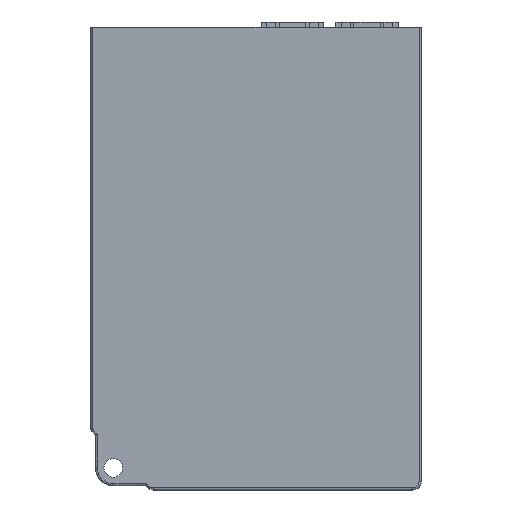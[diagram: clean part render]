
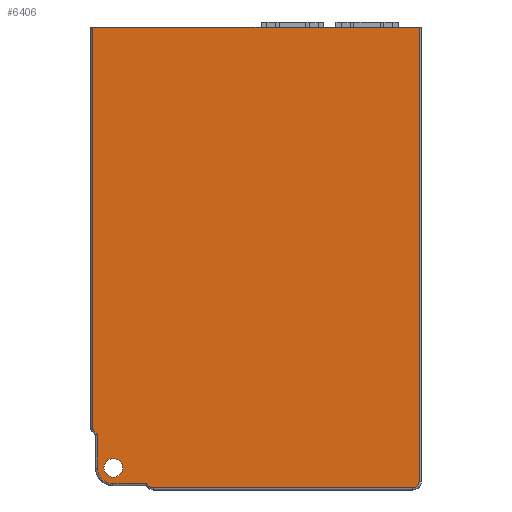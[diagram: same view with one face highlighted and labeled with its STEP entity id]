
A CAD part, front view. The second image highlights one B-rep face of the part: STEP entity #6406.
In plain terms, the highlighted planar face has unit normal (0, -1, 0).
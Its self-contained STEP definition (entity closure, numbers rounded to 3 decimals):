
#2748=CARTESIAN_POINT('',(-34.35,0.,-68.85));
#2749=DIRECTION('',(0.,-1.,0.));
#2750=DIRECTION('',(1.,0.,0.));
#2751=AXIS2_PLACEMENT_3D('',#2748,#2749,#2750);
#2756=CARTESIAN_POINT('',(-34.35,0.,-68.85));
#2757=DIRECTION('',(0.,-1.,0.));
#2758=DIRECTION('',(-1.,0.,0.));
#2759=AXIS2_PLACEMENT_3D('',#2756,#2757,#2758);
#2764=DIRECTION('',(1.,0.,0.));
#2765=VECTOR('',#2764,78.5);
#2766=CARTESIAN_POINT('',(-39.25,0.,37.202));
#2767=LINE('',#2766,#2765);
#2771=DIRECTION('',(0.,0.,1.));
#2772=VECTOR('',#2771,109.39);
#2773=CARTESIAN_POINT('',(39.25,0.,-72.188));
#2774=LINE('',#2773,#2772);
#2778=CARTESIAN_POINT('',(37.75,0.,-72.188));
#2779=DIRECTION('',(0.,-1.,0.));
#2780=DIRECTION('',(0.,0.,-1.));
#2781=AXIS2_PLACEMENT_3D('',#2778,#2779,#2780);
#2786=DIRECTION('',(1.,0.,0.));
#2787=VECTOR('',#2786,62.39);
#2788=CARTESIAN_POINT('',(-24.64,0.,-73.688));
#2789=LINE('',#2788,#2787);
#2793=CARTESIAN_POINT('',(-24.64,0.,-72.188));
#2794=DIRECTION('',(0.,-1.,0.));
#2795=DIRECTION('',(-0.707,0.,-0.707));
#2796=AXIS2_PLACEMENT_3D('',#2793,#2794,#2795);
#2801=DIRECTION('',(0.707,0.,-0.707));
#2802=VECTOR('',#2801,0.846);
#2803=CARTESIAN_POINT('',(-26.299,0.,-72.65));
#2804=LINE('',#2803,#2802);
#2808=DIRECTION('',(1.,0.,0.));
#2809=VECTOR('',#2808,8.151);
#2810=CARTESIAN_POINT('',(-34.45,0.,-72.65));
#2811=LINE('',#2810,#2809);
#2815=CARTESIAN_POINT('',(-34.45,0.,-68.95));
#2816=DIRECTION('',(0.,-1.,0.));
#2817=DIRECTION('',(-1.,0.,0.));
#2818=AXIS2_PLACEMENT_3D('',#2815,#2816,#2817);
#2823=DIRECTION('',(0.,0.,-1.));
#2824=VECTOR('',#2823,8.151);
#2825=CARTESIAN_POINT('',(-38.15,0.,-60.799));
#2826=LINE('',#2825,#2824);
#2830=DIRECTION('',(0.707,0.,-0.707));
#2831=VECTOR('',#2830,1.349);
#2832=CARTESIAN_POINT('',(-39.104,0.,-59.845));
#2833=LINE('',#2832,#2831);
#2837=CARTESIAN_POINT('',(-38.75,0.,-59.492));
#2838=DIRECTION('',(0.,-1.,0.));
#2839=DIRECTION('',(-1.,0.,0.));
#2840=AXIS2_PLACEMENT_3D('',#2837,#2838,#2839);
#2845=DIRECTION('',(0.,0.,-1.));
#2846=VECTOR('',#2845,96.694);
#2847=CARTESIAN_POINT('',(-39.25,0.,37.202));
#2848=LINE('',#2847,#2846);
#3410=CARTESIAN_POINT('',(-32.1,0.,-68.85));
#3411=CARTESIAN_POINT('',(-36.6,0.,-68.85));
#3412=VERTEX_POINT('',#3410);
#3413=VERTEX_POINT('',#3411);
#3477=CARTESIAN_POINT('',(-34.45,0.,-72.65));
#3478=CARTESIAN_POINT('',(-26.299,0.,-72.65));
#3479=VERTEX_POINT('',#3477);
#3480=VERTEX_POINT('',#3478);
#3481=CARTESIAN_POINT('',(-38.15,0.,-68.95));
#3482=VERTEX_POINT('',#3481);
#3485=CARTESIAN_POINT('',(-38.15,0.,-60.799));
#3486=VERTEX_POINT('',#3485);
#3489=CARTESIAN_POINT('',(-25.7,0.,-73.249));
#3490=VERTEX_POINT('',#3489);
#3493=CARTESIAN_POINT('',(-24.64,0.,-73.688));
#3494=VERTEX_POINT('',#3493);
#3497=CARTESIAN_POINT('',(37.75,0.,-73.688));
#3498=VERTEX_POINT('',#3497);
#3501=CARTESIAN_POINT('',(39.25,0.,-72.188));
#3502=VERTEX_POINT('',#3501);
#3505=CARTESIAN_POINT('',(-39.25,0.,-59.492));
#3506=CARTESIAN_POINT('',(-39.104,0.,-59.845));
#3507=VERTEX_POINT('',#3505);
#3508=VERTEX_POINT('',#3506);
#3513=CARTESIAN_POINT('',(-39.25,0.,37.202));
#3514=CARTESIAN_POINT('',(39.25,0.,37.202));
#3515=VERTEX_POINT('',#3513);
#3516=VERTEX_POINT('',#3514);
#6371=CARTESIAN_POINT('',(-39.75,0.,75.));
#6372=DIRECTION('',(0.,-1.,0.));
#6373=DIRECTION('',(0.,0.,-1.));
#6374=AXIS2_PLACEMENT_3D('',#6371,#6372,#6373);
#6375=PLANE('',#6374);
#6376=ORIENTED_EDGE('',*,*,#4326,.T.);
#6378=ORIENTED_EDGE('',*,*,#6377,.F.);
#6380=ORIENTED_EDGE('',*,*,#6379,.F.);
#6382=ORIENTED_EDGE('',*,*,#6381,.F.);
#6384=ORIENTED_EDGE('',*,*,#6383,.F.);
#6386=ORIENTED_EDGE('',*,*,#6385,.F.);
#6388=ORIENTED_EDGE('',*,*,#6387,.F.);
#6390=ORIENTED_EDGE('',*,*,#6389,.F.);
#6392=ORIENTED_EDGE('',*,*,#6391,.F.);
#6394=ORIENTED_EDGE('',*,*,#6393,.F.);
#6395=ORIENTED_EDGE('',*,*,#6361,.F.);
#6397=ORIENTED_EDGE('',*,*,#6396,.F.);
#6398=EDGE_LOOP('',(#6376,#6378,#6380,#6382,#6384,#6386,#6388,#6390,#6392,#6394,
#6395,#6397));
#6399=FACE_OUTER_BOUND('',#6398,.F.);
#6401=ORIENTED_EDGE('',*,*,#6400,.T.);
#6403=ORIENTED_EDGE('',*,*,#6402,.T.);
#6404=EDGE_LOOP('',(#6401,#6403));
#6405=FACE_BOUND('',#6404,.F.);
#2752=CIRCLE('',#2751,2.25);
#2760=CIRCLE('',#2759,2.25);
#2782=CIRCLE('',#2781,1.5);
#2797=CIRCLE('',#2796,1.5);
#2819=CIRCLE('',#2818,3.7);
#2841=CIRCLE('',#2840,0.5);
#4326=EDGE_CURVE('',#3515,#3516,#2767,.T.);
#6361=EDGE_CURVE('',#3507,#3508,#2841,.T.);
#6377=EDGE_CURVE('',#3502,#3516,#2774,.T.);
#6379=EDGE_CURVE('',#3498,#3502,#2782,.T.);
#6381=EDGE_CURVE('',#3494,#3498,#2789,.T.);
#6383=EDGE_CURVE('',#3490,#3494,#2797,.T.);
#6385=EDGE_CURVE('',#3480,#3490,#2804,.T.);
#6387=EDGE_CURVE('',#3479,#3480,#2811,.T.);
#6389=EDGE_CURVE('',#3482,#3479,#2819,.T.);
#6391=EDGE_CURVE('',#3486,#3482,#2826,.T.);
#6393=EDGE_CURVE('',#3508,#3486,#2833,.T.);
#6396=EDGE_CURVE('',#3515,#3507,#2848,.T.);
#6400=EDGE_CURVE('',#3412,#3413,#2752,.T.);
#6402=EDGE_CURVE('',#3413,#3412,#2760,.T.);
#6406=ADVANCED_FACE('',(#6399,#6405),#6375,.T.);
